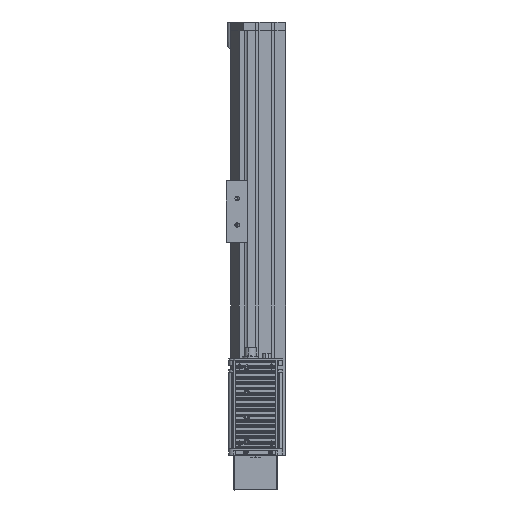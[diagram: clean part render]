
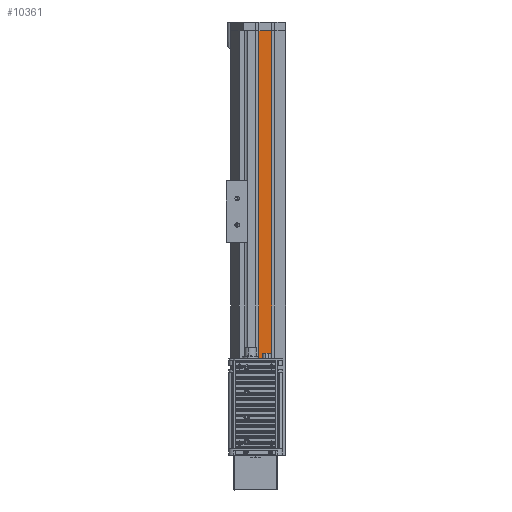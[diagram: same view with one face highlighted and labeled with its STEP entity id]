
A CAD part, left-side view. The second image highlights one B-rep face of the part: STEP entity #10361.
In plain terms, the highlighted planar face has unit normal (-1, 0, 0).
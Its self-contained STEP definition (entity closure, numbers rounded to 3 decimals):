
#2613 = DIRECTION ( 'NONE',  ( 0., 0., -1. ) ) ;
#2614 = VECTOR ( 'NONE', #2613, 1000. ) ;
#2615 = CARTESIAN_POINT ( 'NONE',  ( -50., 30., 1400. ) ) ;
#2616 = LINE ( 'NONE', #2615, #2614 ) ;
#2656 = CARTESIAN_POINT ( 'NONE',  ( -50., 30., 480. ) ) ;
#2665 = CARTESIAN_POINT ( 'NONE',  ( -50., 30., 0. ) ) ;
#2672 = LINE ( 'NONE', #2741, #2733 ) ;
#2722 = CARTESIAN_POINT ( 'NONE',  ( -50., 15.5, 480. ) ) ;
#2730 = CARTESIAN_POINT ( 'NONE',  ( -50., 15.5, 0. ) ) ;
#2732 = DIRECTION ( 'NONE',  ( 0., 0., -1. ) ) ;
#2733 = VECTOR ( 'NONE', #2732, 1000. ) ;
#2741 = CARTESIAN_POINT ( 'NONE',  ( -50., 15.5, 1400. ) ) ;
#2757 = FACE_OUTER_BOUND ( 'NONE', #10332, .T. ) ;
#2762 = LINE ( 'NONE', #2793, #2792 ) ;
#2777 = PLANE ( 'NONE',  #2807 ) ;
#2780 = DIRECTION ( 'NONE',  ( 0., -1., 0. ) ) ;
#2781 = VECTOR ( 'NONE', #2780, 1000. ) ;
#2782 = CARTESIAN_POINT ( 'NONE',  ( -50., 15.5, 0. ) ) ;
#2791 = DIRECTION ( 'NONE',  ( 0., -1., 0. ) ) ;
#2792 = VECTOR ( 'NONE', #2791, 1000. ) ;
#2793 = CARTESIAN_POINT ( 'NONE',  ( -50., 30., 480. ) ) ;
#2800 = DIRECTION ( 'NONE',  ( 0., 0., -1. ) ) ;
#2801 = DIRECTION ( 'NONE',  ( 1., 0., 0. ) ) ;
#2802 = CARTESIAN_POINT ( 'NONE',  ( -50., 15.5, 1400. ) ) ;
#2804 = LINE ( 'NONE', #2782, #2781 ) ;
#2807 = AXIS2_PLACEMENT_3D ( 'NONE', #2802, #2801, #2800 ) ;
#10277 = EDGE_CURVE ( 'NONE', #10292, #10308, #2616, .T. ) ;
#10292 = VERTEX_POINT ( 'NONE', #2656 ) ;
#10308 = VERTEX_POINT ( 'NONE', #2665 ) ;
#10329 = EDGE_CURVE ( 'NONE', #10339, #10334, #2672, .T. ) ;
#10332 = EDGE_LOOP ( 'NONE', ( #10337, #10419, #10362, #10401 ) ) ;
#10334 = VERTEX_POINT ( 'NONE', #2730 ) ;
#10337 = ORIENTED_EDGE ( 'NONE', *, *, #10329, .F. ) ;
#10339 = VERTEX_POINT ( 'NONE', #2722 ) ;
#10361 = ADVANCED_FACE ( 'NONE', ( #2757 ), #2777, .F. ) ;
#10362 = ORIENTED_EDGE ( 'NONE', *, *, #10277, .T. ) ;
#10368 = EDGE_CURVE ( 'NONE', #10292, #10339, #2762, .T. ) ;
#10371 = EDGE_CURVE ( 'NONE', #10308, #10334, #2804, .T. ) ;
#10401 = ORIENTED_EDGE ( 'NONE', *, *, #10371, .T. ) ;
#10419 = ORIENTED_EDGE ( 'NONE', *, *, #10368, .F. ) ;
